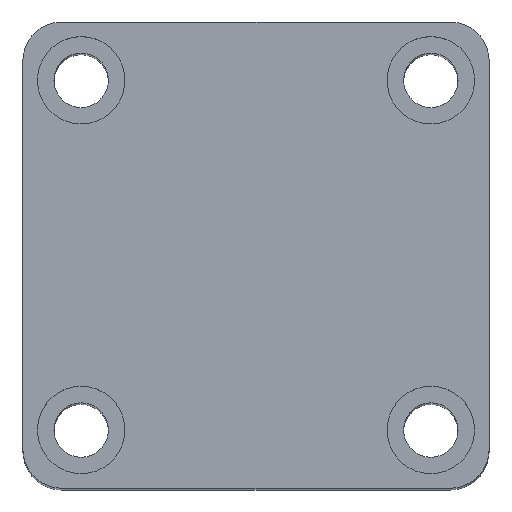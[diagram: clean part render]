
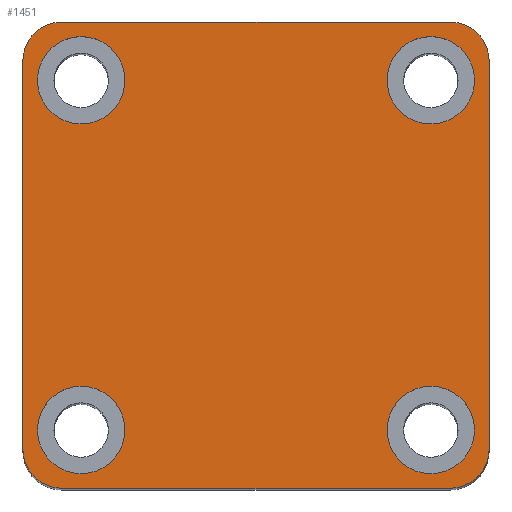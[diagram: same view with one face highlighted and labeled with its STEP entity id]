
A CAD part, top view. The second image highlights one B-rep face of the part: STEP entity #1451.
In plain terms, the highlighted planar face has unit normal (0, 0, 1).
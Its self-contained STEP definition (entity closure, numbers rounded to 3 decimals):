
#195 = ORIENTED_EDGE ( 'NONE', *, *, #1049, .T. ) ;
#196 = ORIENTED_EDGE ( 'NONE', *, *, #1010, .T. ) ;
#197 = ORIENTED_EDGE ( 'NONE', *, *, #1057, .T. ) ;
#199 = ORIENTED_EDGE ( 'NONE', *, *, #964, .F. ) ;
#200 = ORIENTED_EDGE ( 'NONE', *, *, #1034, .F. ) ;
#201 = ORIENTED_EDGE ( 'NONE', *, *, #941, .F. ) ;
#202 = ORIENTED_EDGE ( 'NONE', *, *, #1040, .T. ) ;
#203 = ORIENTED_EDGE ( 'NONE', *, *, #947, .F. ) ;
#205 = ORIENTED_EDGE ( 'NONE', *, *, #965, .F. ) ;
#206 = ORIENTED_EDGE ( 'NONE', *, *, #1015, .F. ) ;
#207 = ORIENTED_EDGE ( 'NONE', *, *, #949, .F. ) ;
#208 = ORIENTED_EDGE ( 'NONE', *, *, #1039, .T. ) ;
#210 = ORIENTED_EDGE ( 'NONE', *, *, #1051, .T. ) ;
#211 = ORIENTED_EDGE ( 'NONE', *, *, #936, .F. ) ;
#212 = ORIENTED_EDGE ( 'NONE', *, *, #1045, .T. ) ;
#233 = VERTEX_POINT ( 'NONE', #1547 ) ;
#237 = VERTEX_POINT ( 'NONE', #1533 ) ;
#238 = VERTEX_POINT ( 'NONE', #1536 ) ;
#245 = VERTEX_POINT ( 'NONE', #1528 ) ;
#247 = VERTEX_POINT ( 'NONE', #1518 ) ;
#255 = VERTEX_POINT ( 'NONE', #1872 ) ;
#260 = VERTEX_POINT ( 'NONE', #1867 ) ;
#262 = VERTEX_POINT ( 'NONE', #1865 ) ;
#267 = VERTEX_POINT ( 'NONE', #1860 ) ;
#273 = VERTEX_POINT ( 'NONE', #1854 ) ;
#287 = VERTEX_POINT ( 'NONE', #1840 ) ;
#297 = VERTEX_POINT ( 'NONE', #1831 ) ;
#298 = VERTEX_POINT ( 'NONE', #1830 ) ;
#304 = VERTEX_POINT ( 'NONE', #1825 ) ;
#309 = VERTEX_POINT ( 'NONE', #1821 ) ;
#348 = VERTEX_POINT ( 'NONE', #1780 ) ;
#835 = AXIS2_PLACEMENT_3D ( 'NONE', #2279, #2301, #2264 ) ;
#859 = AXIS2_PLACEMENT_3D ( 'NONE', #2706, #2705, #2704 ) ;
#860 = AXIS2_PLACEMENT_3D ( 'NONE', #2712, #2711, #2710 ) ;
#863 = AXIS2_PLACEMENT_3D ( 'NONE', #2724, #2723, #2722 ) ;
#869 = AXIS2_PLACEMENT_3D ( 'NONE', #2750, #2748, #2747 ) ;
#876 = AXIS2_PLACEMENT_3D ( 'NONE', #2386, #2377, #2372 ) ;
#880 = AXIS2_PLACEMENT_3D ( 'NONE', #2591, #2578, #2558 ) ;
#906 = AXIS2_PLACEMENT_3D ( 'NONE', #1721, #1720, #1719 ) ;
#908 = AXIS2_PLACEMENT_3D ( 'NONE', #1732, #1730, #1729 ) ;
#911 = AXIS2_PLACEMENT_3D ( 'NONE', #1750, #1749, #1748 ) ;
#915 = AXIS2_PLACEMENT_3D ( 'NONE', #1762, #1760, #1759 ) ;
#936 = EDGE_CURVE ( 'NONE', #262, #237, #1421, .T. ) ;
#941 = EDGE_CURVE ( 'NONE', #245, #255, #1397, .T. ) ;
#947 = EDGE_CURVE ( 'NONE', #273, #238, #1389, .T. ) ;
#949 = EDGE_CURVE ( 'NONE', #309, #260, #1386, .T. ) ;
#964 = EDGE_CURVE ( 'NONE', #237, #262, #1366, .T. ) ;
#965 = EDGE_CURVE ( 'NONE', #238, #273, #1364, .T. ) ;
#1009 = AXIS2_PLACEMENT_3D ( 'NONE', #1657, #1656, #1655 ) ;
#1010 = EDGE_CURVE ( 'NONE', #348, #304, #1309, .T. ) ;
#1015 = EDGE_CURVE ( 'NONE', #260, #309, #1300, .T. ) ;
#1024 = EDGE_CURVE ( 'NONE', #247, #267, #1289, .T. ) ;
#1031 = AXIS2_PLACEMENT_3D ( 'NONE', #1664, #1663, #1662 ) ;
#1034 = EDGE_CURVE ( 'NONE', #255, #245, #1277, .T. ) ;
#1039 = EDGE_CURVE ( 'NONE', #287, #297, #1270, .T. ) ;
#1040 = EDGE_CURVE ( 'NONE', #298, #233, #1269, .T. ) ;
#1045 = EDGE_CURVE ( 'NONE', #304, #298, #1262, .T. ) ;
#1049 = EDGE_CURVE ( 'NONE', #297, #348, #1254, .T. ) ;
#1051 = EDGE_CURVE ( 'NONE', #267, #287, #1258, .T. ) ;
#1057 = EDGE_CURVE ( 'NONE', #233, #247, #1238, .T. ) ;
#1196 = FACE_BOUND ( 'NONE', #1953, .T. ) ;
#1197 = FACE_BOUND ( 'NONE', #1979, .T. ) ;
#1198 = FACE_BOUND ( 'NONE', #2016, .T. ) ;
#1201 = FACE_OUTER_BOUND ( 'NONE', #1975, .T. ) ;
#1202 = FACE_BOUND ( 'NONE', #2013, .T. ) ;
#1235 = VECTOR ( 'NONE', #2610, 1000. ) ;
#1238 = LINE ( 'NONE', #2618, #1235 ) ;
#1247 = VECTOR ( 'NONE', #2669, 1000. ) ;
#1251 = VECTOR ( 'NONE', #2680, 1000. ) ;
#1254 = LINE ( 'NONE', #2686, #1251 ) ;
#1258 = LINE ( 'NONE', #2698, #1247 ) ;
#1259 = VECTOR ( 'NONE', #2693, 1000. ) ;
#1262 = LINE ( 'NONE', #2694, #1259 ) ;
#1269 = CIRCLE ( 'NONE', #859, 4. ) ;
#1270 = CIRCLE ( 'NONE', #860, 4. ) ;
#1277 = CIRCLE ( 'NONE', #863, 4.5 ) ;
#1289 = CIRCLE ( 'NONE', #869, 4. ) ;
#1300 = CIRCLE ( 'NONE', #876, 4.5 ) ;
#1309 = CIRCLE ( 'NONE', #880, 4. ) ;
#1364 = CIRCLE ( 'NONE', #1009, 4.5 ) ;
#1366 = CIRCLE ( 'NONE', #1031, 4.5 ) ;
#1386 = CIRCLE ( 'NONE', #906, 4.5 ) ;
#1389 = CIRCLE ( 'NONE', #908, 4.5 ) ;
#1397 = CIRCLE ( 'NONE', #911, 4.5 ) ;
#1421 = CIRCLE ( 'NONE', #915, 4.5 ) ;
#1451 = ADVANCED_FACE ( 'NONE', ( #1202, #1196, #1198, #1197, #1201 ), #2272, .T. ) ;
#1518 = CARTESIAN_POINT ( 'NONE',  ( 24., 20., 105. ) ) ;
#1528 = CARTESIAN_POINT ( 'NONE',  ( 13.5, -18., 105. ) ) ;
#1533 = CARTESIAN_POINT ( 'NONE',  ( -22.5, -18., 105. ) ) ;
#1536 = CARTESIAN_POINT ( 'NONE',  ( 13.5, 18., 105. ) ) ;
#1547 = CARTESIAN_POINT ( 'NONE',  ( 24., -20., 105. ) ) ;
#1655 = DIRECTION ( 'NONE',  ( 1., 0., 0. ) ) ;
#1656 = DIRECTION ( 'NONE',  ( 0., 0., 1. ) ) ;
#1657 = CARTESIAN_POINT ( 'NONE',  ( 18., 18., 105. ) ) ;
#1662 = DIRECTION ( 'NONE',  ( 1., 0., 0. ) ) ;
#1663 = DIRECTION ( 'NONE',  ( 0., 0., 1. ) ) ;
#1664 = CARTESIAN_POINT ( 'NONE',  ( -18., -18., 105. ) ) ;
#1719 = DIRECTION ( 'NONE',  ( 1., 0., 0. ) ) ;
#1720 = DIRECTION ( 'NONE',  ( 0., 0., 1. ) ) ;
#1721 = CARTESIAN_POINT ( 'NONE',  ( -18., 18., 105. ) ) ;
#1729 = DIRECTION ( 'NONE',  ( 1., 0., 0. ) ) ;
#1730 = DIRECTION ( 'NONE',  ( 0., 0., 1. ) ) ;
#1732 = CARTESIAN_POINT ( 'NONE',  ( 18., 18., 105. ) ) ;
#1748 = DIRECTION ( 'NONE',  ( 1., 0., 0. ) ) ;
#1749 = DIRECTION ( 'NONE',  ( 0., 0., 1. ) ) ;
#1750 = CARTESIAN_POINT ( 'NONE',  ( 18., -18., 105. ) ) ;
#1759 = DIRECTION ( 'NONE',  ( 1., 0., 0. ) ) ;
#1760 = DIRECTION ( 'NONE',  ( 0., 0., 1. ) ) ;
#1762 = CARTESIAN_POINT ( 'NONE',  ( -18., -18., 105. ) ) ;
#1780 = CARTESIAN_POINT ( 'NONE',  ( -24., -20., 105. ) ) ;
#1821 = CARTESIAN_POINT ( 'NONE',  ( -22.5, 18., 105. ) ) ;
#1825 = CARTESIAN_POINT ( 'NONE',  ( -20., -24., 105. ) ) ;
#1830 = CARTESIAN_POINT ( 'NONE',  ( 20., -24., 105. ) ) ;
#1831 = CARTESIAN_POINT ( 'NONE',  ( -24., 20., 105. ) ) ;
#1840 = CARTESIAN_POINT ( 'NONE',  ( -20., 24., 105. ) ) ;
#1854 = CARTESIAN_POINT ( 'NONE',  ( 22.5, 18., 105. ) ) ;
#1860 = CARTESIAN_POINT ( 'NONE',  ( 20., 24., 105. ) ) ;
#1865 = CARTESIAN_POINT ( 'NONE',  ( -13.5, -18., 105. ) ) ;
#1867 = CARTESIAN_POINT ( 'NONE',  ( -13.5, 18., 105. ) ) ;
#1872 = CARTESIAN_POINT ( 'NONE',  ( 22.5, -18., 105. ) ) ;
#1953 = EDGE_LOOP ( 'NONE', ( #203, #205 ) ) ;
#1975 = EDGE_LOOP ( 'NONE', ( #210, #208, #195, #196, #212, #202, #197, #2022 ) ) ;
#1979 = EDGE_LOOP ( 'NONE', ( #200, #201 ) ) ;
#2013 = EDGE_LOOP ( 'NONE', ( #206, #207 ) ) ;
#2016 = EDGE_LOOP ( 'NONE', ( #211, #199 ) ) ;
#2022 = ORIENTED_EDGE ( 'NONE', *, *, #1024, .T. ) ;
#2264 = DIRECTION ( 'NONE',  ( 1., 0., 0. ) ) ;
#2272 = PLANE ( 'NONE',  #835 ) ;
#2279 = CARTESIAN_POINT ( 'NONE',  ( 0., 0., 105. ) ) ;
#2301 = DIRECTION ( 'NONE',  ( 0., 0., 1. ) ) ;
#2372 = DIRECTION ( 'NONE',  ( 1., 0., 0. ) ) ;
#2377 = DIRECTION ( 'NONE',  ( 0., 0., 1. ) ) ;
#2386 = CARTESIAN_POINT ( 'NONE',  ( -18., 18., 105. ) ) ;
#2558 = DIRECTION ( 'NONE',  ( 1., 0., 0. ) ) ;
#2578 = DIRECTION ( 'NONE',  ( 0., 0., 1. ) ) ;
#2591 = CARTESIAN_POINT ( 'NONE',  ( -20., -20., 105. ) ) ;
#2610 = DIRECTION ( 'NONE',  ( 0., 1., 0. ) ) ;
#2618 = CARTESIAN_POINT ( 'NONE',  ( 24., 24., 105. ) ) ;
#2669 = DIRECTION ( 'NONE',  ( -1., 0., 0. ) ) ;
#2680 = DIRECTION ( 'NONE',  ( 0., -1., 0. ) ) ;
#2686 = CARTESIAN_POINT ( 'NONE',  ( -24., 24., 105. ) ) ;
#2693 = DIRECTION ( 'NONE',  ( 1., 0., 0. ) ) ;
#2694 = CARTESIAN_POINT ( 'NONE',  ( -24., -24., 105. ) ) ;
#2698 = CARTESIAN_POINT ( 'NONE',  ( -24., 24., 105. ) ) ;
#2704 = DIRECTION ( 'NONE',  ( 1., 0., 0. ) ) ;
#2705 = DIRECTION ( 'NONE',  ( 0., 0., 1. ) ) ;
#2706 = CARTESIAN_POINT ( 'NONE',  ( 20., -20., 105. ) ) ;
#2710 = DIRECTION ( 'NONE',  ( 1., 0., 0. ) ) ;
#2711 = DIRECTION ( 'NONE',  ( 0., 0., 1. ) ) ;
#2712 = CARTESIAN_POINT ( 'NONE',  ( -20., 20., 105. ) ) ;
#2722 = DIRECTION ( 'NONE',  ( 1., 0., 0. ) ) ;
#2723 = DIRECTION ( 'NONE',  ( 0., 0., 1. ) ) ;
#2724 = CARTESIAN_POINT ( 'NONE',  ( 18., -18., 105. ) ) ;
#2747 = DIRECTION ( 'NONE',  ( 1., 0., 0. ) ) ;
#2748 = DIRECTION ( 'NONE',  ( 0., 0., 1. ) ) ;
#2750 = CARTESIAN_POINT ( 'NONE',  ( 20., 20., 105. ) ) ;
